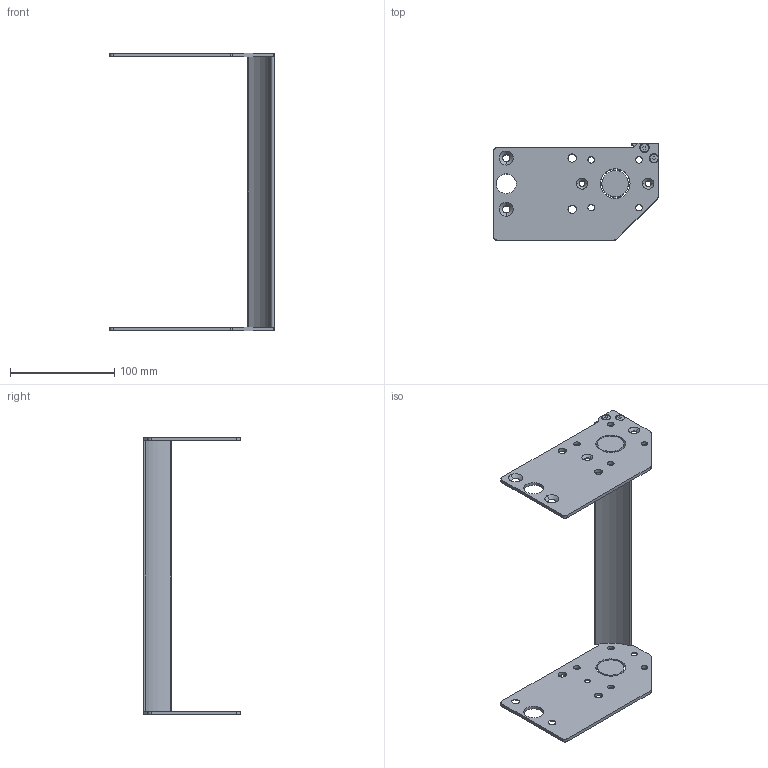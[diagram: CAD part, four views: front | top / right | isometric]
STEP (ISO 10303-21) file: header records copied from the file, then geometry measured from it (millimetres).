
FILE_DESCRIPTION((''),'2;1');
FILE_NAME('27M3300-10_ASM','2017-01-04T',('jenni.wallner'),(''),'PRO/ENGINEER BY PARAMETRIC TECHNOLOGY CORPORATION, 2012420','PRO/ENGINEER BY PARAMETRIC TECHNOLOGY CORPORATION, 2012420','');
FILE_SCHEMA(('CONFIG_CONTROL_DESIGN'));
Length unit declared in the file: inch
Products named in the file (5): 350539-10; 350540; 350541; 930410M; 27M3300-10_ASM
Assembly tree (7 placements, depth 2):
  27M3300-10_ASM
    350539-10
    350540
    350541
    930410M  x4
Bounding box: 157.96 x 92.74 x 266.34 mm (x, y, z)
Volume: 151867.1 mm3; surface area: 85978.1 mm2
Topology: 7 solids, 11 shells, 206 faces, 540 edges, 352 vertices
Faces by surface type: cylinder 96, plane 70, cone 40
Entity records: 5328 total; most frequent: DIRECTION 972, CARTESIAN_POINT 907, ORIENTED_EDGE 836, EDGE_CURVE 426, AXIS2_PLACEMENT_3D 383, VERTEX_POINT 280, EDGE_LOOP 220, CIRCLE 214
